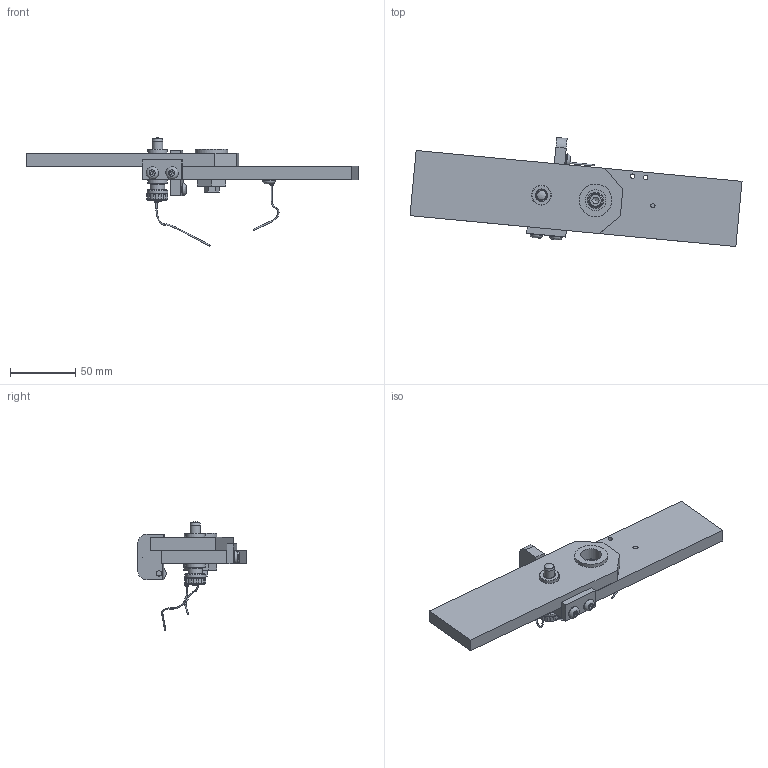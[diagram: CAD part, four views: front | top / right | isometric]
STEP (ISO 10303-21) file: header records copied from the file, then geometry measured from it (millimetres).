
FILE_DESCRIPTION(/* description */ (''),/* implementation_level */ '2;1');
FILE_NAME(/* name */ 'C:\Local Work Area\Progetti\AP\CALIBRI\01.00-P RIBALTINA CON SPINA\01.00-P-sx.stp',/* time_stamp */ '2015-03-26T11:02:39+01:00',/* author */ ('CAD5'),/* organization */ (''),/* preprocessor_version */ 'ST-DEVELOPER v15.2',/* originating_system */ 'Autodesk Inventor 2014',/* authorisation */ '75498,4 mm^3');
FILE_SCHEMA (('AUTOMOTIVE_DESIGN { 1 0 10303 214 3 1 1 }'));
Length unit declared in the file: millimetre
Products named in the file (24): 01.01; 01.05; 01.06; 01.07; 01.02; Molla a tazza Ø12.5x6._2x0_5 uni 8737; Vite STEI M8x12 UNI 5927; Rondella piana 6_4x11 uni 6592; 01.04; BUSSOLA COD 072 D8; UNI 8735 SPINA CILINDRICA 8-35; VOLANTINO ZIGRINATO - 130 10 100; catenella-1; catenella-2; catenella; grano uni5923 M5-12; Vite TBEI M5x10 UNI-ISO 7380; VITE TBEI M5x12 UNI7380; Vite TBEI M5x8 UNI-ISO 7380; 01.08; DADO UNI 5588-M6-1; VITE TCEI M6x20-1-17 UNI5931; 01.00-P
Bounding box: 253.59 x 83.23 x 83 mm (x, y, z)
Volume: 169530.7 mm3; surface area: 59498.3 mm2
Topology: 26 solids, 26 shells, 370 faces, 819 edges, 514 vertices
Faces by surface type: plane 169, cylinder 114, cone 58, torus 21, bspline 7, sphere 1
Full cylindrical faces by diameter (mm): 1 x6, 3.242 x1, 3.5 x2, 4.134 x5, 4.917 x2, 5 x9, 5.2 x2, 5.3 x4, 5.333 x1, 6 x3, 6.2 x1, 6.4 x1, 6.5 x1, 6.647 x1, 8 x4, 9.5 x5, 10 x1, 11 x4, 12 x4, 12.5 x1, 13.867 x1, 14 x1, 15 x2, 16 x2, 20 x3, 25 x1
Entity records: 9244 total; most frequent: CARTESIAN_POINT 2119, DIRECTION 1475, ORIENTED_EDGE 1180, AXIS2_PLACEMENT_3D 617, EDGE_CURVE 588, EDGE_LOOP 493, VERTEX_POINT 427, ADVANCED_FACE 328
